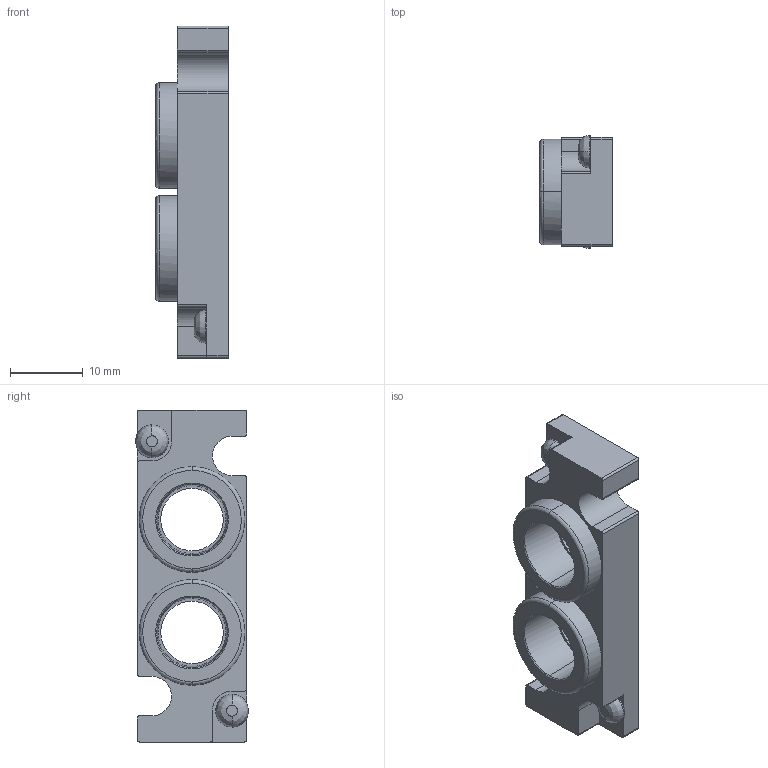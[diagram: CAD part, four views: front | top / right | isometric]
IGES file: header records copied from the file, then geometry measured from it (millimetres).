
Start section: ------------------------------------------------------------------------
Global section: file name: D:\ICADMX\tmp\trans3d_spg\CVICAD02.15632.F10_Port-PM_15270.igs; native system: spGate; preprocessor: ver12.6.6; author: Unknown; organization: Unknown; date: 200901.145836; units: millimetre
Bounding box: 10 x 15.5 x 45.6 mm (x, y, z)
Volume: 3930.1 mm3; surface area: 2822.4 mm2
Topology: 1 solids, 1 shells, 70 faces, 176 edges, 112 vertices
Faces by surface type: bspline 70
